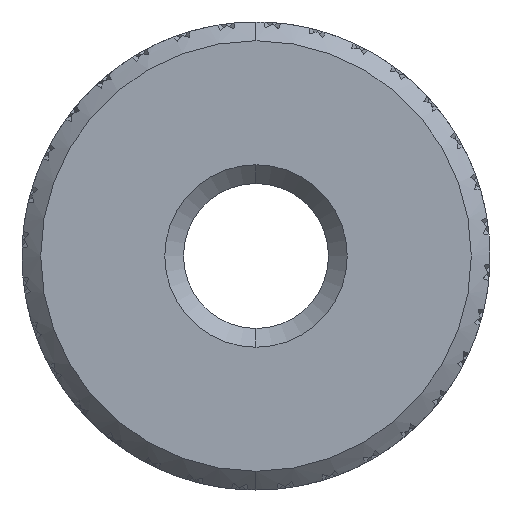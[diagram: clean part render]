
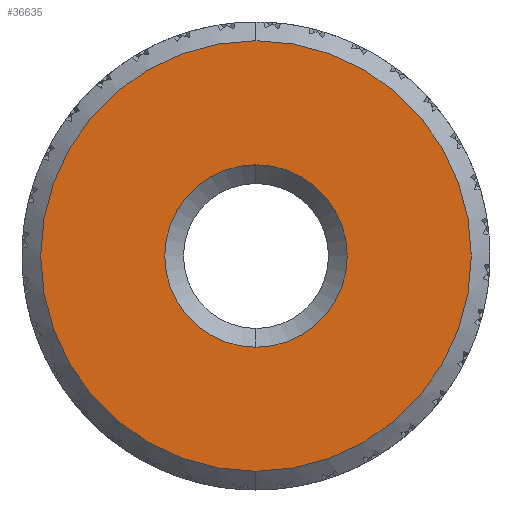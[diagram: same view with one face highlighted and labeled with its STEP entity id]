
A CAD part, left-side view. The second image highlights one B-rep face of the part: STEP entity #36635.
In plain terms, the highlighted planar face has unit normal (-1, 0, 0).
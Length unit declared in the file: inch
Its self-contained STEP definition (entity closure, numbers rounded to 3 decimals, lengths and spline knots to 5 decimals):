
#1447 = VERTEX_POINT ( 'NONE', #16814 ) ;
#5006 = CARTESIAN_POINT ( 'NONE',  ( -0.06056, 0., 0.0975 ) ) ;
#5610 = AXIS2_PLACEMENT_3D ( 'NONE', #13187, #29751, #24968 ) ;
#7296 = CIRCLE ( 'NONE', #28846, 0.23 ) ;
#8845 = CARTESIAN_POINT ( 'NONE',  ( -0.06056, 0., 0. ) ) ;
#9193 = AXIS2_PLACEMENT_3D ( 'NONE', #8845, #46867, #14351 ) ;
#9764 = CARTESIAN_POINT ( 'NONE',  ( -0.06056, 0., 0. ) ) ;
#10704 = ORIENTED_EDGE ( 'NONE', *, *, #19049, .F. ) ;
#13187 = CARTESIAN_POINT ( 'NONE',  ( -0.06056, 0.23, 0. ) ) ;
#14351 = DIRECTION ( 'NONE',  ( 0., 0., 1. ) ) ;
#14842 = CIRCLE ( 'NONE', #15241, 0.23 ) ;
#15241 = AXIS2_PLACEMENT_3D ( 'NONE', #57975, #25760, #63429 ) ;
#15300 = DIRECTION ( 'NONE',  ( 0., 0., 1. ) ) ;
#15998 = ORIENTED_EDGE ( 'NONE', *, *, #51999, .T. ) ;
#16814 = CARTESIAN_POINT ( 'NONE',  ( -0.06056, 0., -0.23 ) ) ;
#19049 = EDGE_CURVE ( 'NONE', #26766, #30159, #23777, .T. ) ;
#20989 = DIRECTION ( 'NONE',  ( -1., 0., 0. ) ) ;
#21873 = ORIENTED_EDGE ( 'NONE', *, *, #24389, .F. ) ;
#22368 = ORIENTED_EDGE ( 'NONE', *, *, #34216, .T. ) ;
#22513 = CIRCLE ( 'NONE', #9193, 0.0975 ) ;
#23777 = CIRCLE ( 'NONE', #37557, 0.0975 ) ;
#24389 = EDGE_CURVE ( 'NONE', #30159, #26766, #22513, .T. ) ;
#24968 = DIRECTION ( 'NONE',  ( 0., 0., -1. ) ) ;
#25760 = DIRECTION ( 'NONE',  ( -1., 0., 0. ) ) ;
#26766 = VERTEX_POINT ( 'NONE', #5006 ) ;
#26967 = EDGE_LOOP ( 'NONE', ( #15998, #22368 ) ) ;
#28846 = AXIS2_PLACEMENT_3D ( 'NONE', #53325, #20989, #58709 ) ;
#29751 = DIRECTION ( 'NONE',  ( 1., 0., 0. ) ) ;
#30159 = VERTEX_POINT ( 'NONE', #60579 ) ;
#34216 = EDGE_CURVE ( 'NONE', #49113, #1447, #7296, .T. ) ;
#36635 = ADVANCED_FACE ( 'NONE', ( #67343, #38624 ), #57211, .F. ) ;
#37557 = AXIS2_PLACEMENT_3D ( 'NONE', #9764, #47793, #15300 ) ;
#38624 = FACE_OUTER_BOUND ( 'NONE', #26967, .T. ) ;
#46867 = DIRECTION ( 'NONE',  ( -1., 0., 0. ) ) ;
#47039 = EDGE_LOOP ( 'NONE', ( #10704, #21873 ) ) ;
#47793 = DIRECTION ( 'NONE',  ( -1., 0., 0. ) ) ;
#49113 = VERTEX_POINT ( 'NONE', #69497 ) ;
#51999 = EDGE_CURVE ( 'NONE', #1447, #49113, #14842, .T. ) ;
#53325 = CARTESIAN_POINT ( 'NONE',  ( -0.06056, 0., 0. ) ) ;
#57211 = PLANE ( 'NONE',  #5610 ) ;
#57975 = CARTESIAN_POINT ( 'NONE',  ( -0.06056, 0., 0. ) ) ;
#58709 = DIRECTION ( 'NONE',  ( 0., 0., 1. ) ) ;
#60579 = CARTESIAN_POINT ( 'NONE',  ( -0.06056, 0., -0.0975 ) ) ;
#63429 = DIRECTION ( 'NONE',  ( 0., 0., 1. ) ) ;
#67343 = FACE_BOUND ( 'NONE', #47039, .T. ) ;
#69497 = CARTESIAN_POINT ( 'NONE',  ( -0.06056, 0., 0.23 ) ) ;
